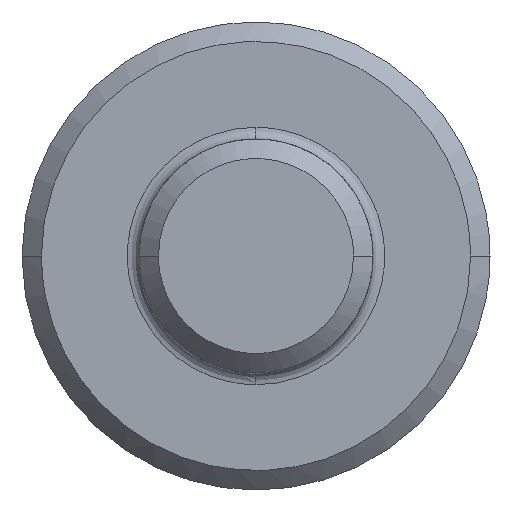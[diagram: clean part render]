
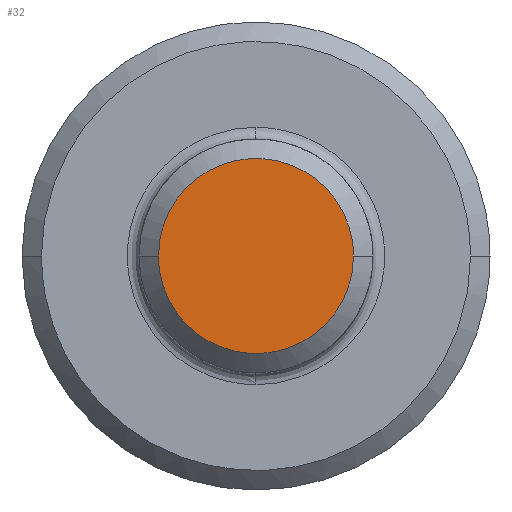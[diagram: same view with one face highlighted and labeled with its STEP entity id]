
A CAD part, left-side view. The second image highlights one B-rep face of the part: STEP entity #32.
In plain terms, the highlighted planar face has unit normal (-1, 0, 0).
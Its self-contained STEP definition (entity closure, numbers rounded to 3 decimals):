
#32=ADVANCED_FACE('',(#54),#628,.T.);
#54=FACE_OUTER_BOUND('',#76,.T.);
#76=EDGE_LOOP('',(#122,#123));
#122=ORIENTED_EDGE('',*,*,#463,.F.);
#123=ORIENTED_EDGE('',*,*,#475,.F.);
#187=(
BOUNDED_CURVE()
B_SPLINE_CURVE(2,(#1307,#1308,#1309,#1310,#1311),.UNSPECIFIED.,.F.,.F.)
B_SPLINE_CURVE_WITH_KNOTS((3,2,3),(5.142,6.712,8.283),
 .UNSPECIFIED.)
CURVE()
GEOMETRIC_REPRESENTATION_ITEM()
RATIONAL_B_SPLINE_CURVE((1.,0.707,1.,0.707,1.))
REPRESENTATION_ITEM('')
);
#197=(
BOUNDED_CURVE()
B_SPLINE_CURVE(2,(#1393,#1394,#1395,#1396,#1397),.UNSPECIFIED.,.F.,.F.)
B_SPLINE_CURVE_WITH_KNOTS((3,2,3),(1.,2.571,4.142),
 .UNSPECIFIED.)
CURVE()
GEOMETRIC_REPRESENTATION_ITEM()
RATIONAL_B_SPLINE_CURVE((1.,0.707,1.,0.707,1.))
REPRESENTATION_ITEM('')
);
#198=(
BOUNDED_CURVE()
B_SPLINE_CURVE(2,(#1404,#1405,#1406,#1407,#1408),.UNSPECIFIED.,.F.,.F.)
B_SPLINE_CURVE_WITH_KNOTS((3,2,3),(5.142,6.712,8.283),
 .UNSPECIFIED.)
CURVE()
GEOMETRIC_REPRESENTATION_ITEM()
RATIONAL_B_SPLINE_CURVE((1.,0.707,1.,0.707,1.))
REPRESENTATION_ITEM('')
);
#199=(
BOUNDED_CURVE()
B_SPLINE_CURVE(2,(#1409,#1410,#1411,#1412,#1413),.UNSPECIFIED.,.F.,.F.)
B_SPLINE_CURVE_WITH_KNOTS((3,2,3),(1.,2.571,4.142),
 .UNSPECIFIED.)
CURVE()
GEOMETRIC_REPRESENTATION_ITEM()
RATIONAL_B_SPLINE_CURVE((1.,0.707,1.,0.707,1.))
REPRESENTATION_ITEM('')
);
#233=PCURVE('',#632,#325);
#255=PCURVE('',#637,#347);
#258=PCURVE('',#628,#350);
#259=PCURVE('',#628,#351);
#325=DEFINITIONAL_REPRESENTATION('',(#511),#1677);
#347=DEFINITIONAL_REPRESENTATION('',(#535),#1677);
#350=DEFINITIONAL_REPRESENTATION('',(#198),#1677);
#351=DEFINITIONAL_REPRESENTATION('',(#199),#1677);
#417=SURFACE_CURVE('',#187,(#233,#258),.PCURVE_S1.);
#429=SURFACE_CURVE('',#197,(#255,#259),.PCURVE_S1.);
#463=EDGE_CURVE('',#602,#600,#417,.T.);
#475=EDGE_CURVE('',#600,#602,#429,.T.);
#511=B_SPLINE_CURVE_WITH_KNOTS('',1,(#1312,#1313),.UNSPECIFIED.,.F.,.F.,
(2,2),(5.142,8.283),.UNSPECIFIED.);
#535=B_SPLINE_CURVE_WITH_KNOTS('',1,(#1398,#1399),.UNSPECIFIED.,.F.,.F.,
(2,2),(1.,4.142),.UNSPECIFIED.);
#600=VERTEX_POINT('',#1264);
#602=VERTEX_POINT('',#1266);
#628=PLANE('',#670);
#632=(
BOUNDED_SURFACE()
B_SPLINE_SURFACE(1,2,((#684,#685,#686,#687,#688,#689,#690,#691,#692),(#693,
#694,#695,#696,#697,#698,#699,#700,#701)),.UNSPECIFIED.,.F.,.F.,.F.)
B_SPLINE_SURFACE_WITH_KNOTS((2,2),(3,2,2,2,3),(0.,1.),(0.,1.571,
3.142,4.712,6.283),.UNSPECIFIED.)
GEOMETRIC_REPRESENTATION_ITEM()
RATIONAL_B_SPLINE_SURFACE(((1.,0.707,1.,0.707,1.,
0.707,1.,0.707,1.),(1.,0.707,1.,0.707,
1.,0.707,1.,0.707,1.)))
REPRESENTATION_ITEM('')
SURFACE()
);
#637=(
BOUNDED_SURFACE()
B_SPLINE_SURFACE(1,2,((#900,#901,#902,#903,#904,#905,#906,#907,#908),(#909,
#910,#911,#912,#913,#914,#915,#916,#917)),.UNSPECIFIED.,.F.,.F.,.F.)
B_SPLINE_SURFACE_WITH_KNOTS((2,2),(3,2,2,2,3),(0.,1.),(0.,1.571,
3.142,4.712,6.283),.UNSPECIFIED.)
GEOMETRIC_REPRESENTATION_ITEM()
RATIONAL_B_SPLINE_SURFACE(((1.,0.707,1.,0.707,1.,
0.707,1.,0.707,1.),(1.,0.707,1.,0.707,
1.,0.707,1.,0.707,1.)))
REPRESENTATION_ITEM('')
SURFACE()
);
#670=AXIS2_PLACEMENT_3D('',#918,#677,$);
#677=DIRECTION('',(-1.,0.,0.));
#684=CARTESIAN_POINT('',(-38.5,285.,30.));
#685=CARTESIAN_POINT('',(-38.5,285.,30.));
#686=CARTESIAN_POINT('',(-38.5,285.,30.));
#687=CARTESIAN_POINT('',(-38.5,285.,30.));
#688=CARTESIAN_POINT('',(-38.5,285.,30.));
#689=CARTESIAN_POINT('',(-38.5,285.,30.));
#690=CARTESIAN_POINT('',(-38.5,285.,30.));
#691=CARTESIAN_POINT('',(-38.5,285.,30.));
#692=CARTESIAN_POINT('',(-38.5,285.,30.));
#693=CARTESIAN_POINT('',(-34.257,289.243,30.));
#694=CARTESIAN_POINT('',(-34.257,289.243,25.757));
#695=CARTESIAN_POINT('',(-34.257,285.,25.757));
#696=CARTESIAN_POINT('',(-34.257,280.757,25.757));
#697=CARTESIAN_POINT('',(-34.257,280.757,30.));
#698=CARTESIAN_POINT('',(-34.257,280.757,34.243));
#699=CARTESIAN_POINT('',(-34.257,285.,34.243));
#700=CARTESIAN_POINT('',(-34.257,289.243,34.243));
#701=CARTESIAN_POINT('',(-34.257,289.243,30.));
#900=CARTESIAN_POINT('',(-38.5,285.,30.));
#901=CARTESIAN_POINT('',(-38.5,285.,30.));
#902=CARTESIAN_POINT('',(-38.5,285.,30.));
#903=CARTESIAN_POINT('',(-38.5,285.,30.));
#904=CARTESIAN_POINT('',(-38.5,285.,30.));
#905=CARTESIAN_POINT('',(-38.5,285.,30.));
#906=CARTESIAN_POINT('',(-38.5,285.,30.));
#907=CARTESIAN_POINT('',(-38.5,285.,30.));
#908=CARTESIAN_POINT('',(-38.5,285.,30.));
#909=CARTESIAN_POINT('',(-34.257,289.243,30.));
#910=CARTESIAN_POINT('',(-34.257,289.243,25.757));
#911=CARTESIAN_POINT('',(-34.257,285.,25.757));
#912=CARTESIAN_POINT('',(-34.257,280.757,25.757));
#913=CARTESIAN_POINT('',(-34.257,280.757,30.));
#914=CARTESIAN_POINT('',(-34.257,280.757,34.243));
#915=CARTESIAN_POINT('',(-34.257,285.,34.243));
#916=CARTESIAN_POINT('',(-34.257,289.243,34.243));
#917=CARTESIAN_POINT('',(-34.257,289.243,30.));
#918=CARTESIAN_POINT('',(-36.,282.5,32.5));
#1264=CARTESIAN_POINT('',(-36.,287.5,30.));
#1266=CARTESIAN_POINT('',(-36.,282.5,30.));
#1307=CARTESIAN_POINT('',(-36.,282.5,30.));
#1308=CARTESIAN_POINT('',(-36.,282.5,27.5));
#1309=CARTESIAN_POINT('',(-36.,285.,27.5));
#1310=CARTESIAN_POINT('',(-36.,287.5,27.5));
#1311=CARTESIAN_POINT('',(-36.,287.5,30.));
#1312=CARTESIAN_POINT('',(0.589,3.142));
#1313=CARTESIAN_POINT('',(0.589,0.));
#1393=CARTESIAN_POINT('',(-36.,287.5,30.));
#1394=CARTESIAN_POINT('',(-36.,287.5,32.5));
#1395=CARTESIAN_POINT('',(-36.,285.,32.5));
#1396=CARTESIAN_POINT('',(-36.,282.5,32.5));
#1397=CARTESIAN_POINT('',(-36.,282.5,30.));
#1398=CARTESIAN_POINT('',(0.589,6.283));
#1399=CARTESIAN_POINT('',(0.589,3.142));
#1404=CARTESIAN_POINT('',(0.,0.5));
#1405=CARTESIAN_POINT('',(0.,1.));
#1406=CARTESIAN_POINT('',(0.5,1.));
#1407=CARTESIAN_POINT('',(1.,1.));
#1408=CARTESIAN_POINT('',(1.,0.5));
#1409=CARTESIAN_POINT('',(1.,0.5));
#1410=CARTESIAN_POINT('',(1.,0.));
#1411=CARTESIAN_POINT('',(0.5,0.));
#1412=CARTESIAN_POINT('',(0.,0.));
#1413=CARTESIAN_POINT('',(0.,0.5));
#1677=(
GEOMETRIC_REPRESENTATION_CONTEXT(2)
PARAMETRIC_REPRESENTATION_CONTEXT()
REPRESENTATION_CONTEXT('pspace','')
);
